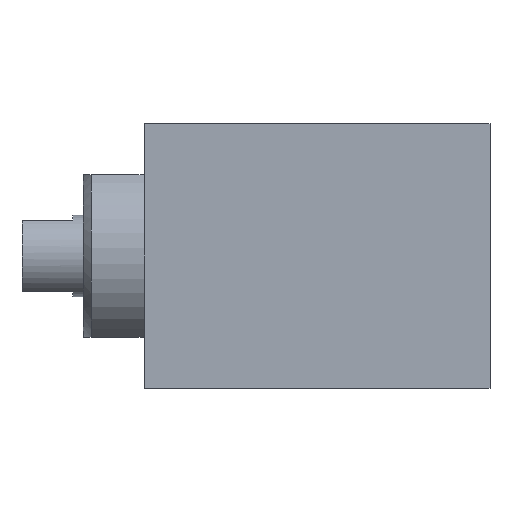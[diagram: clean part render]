
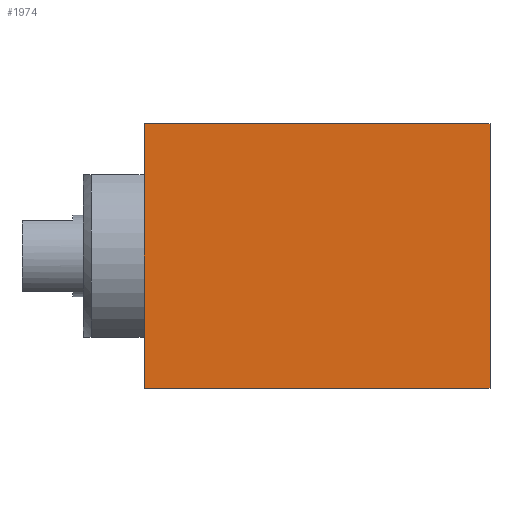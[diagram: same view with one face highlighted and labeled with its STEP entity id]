
A CAD part, front view. The second image highlights one B-rep face of the part: STEP entity #1974.
In plain terms, the highlighted planar face has unit normal (0, -1, 0).
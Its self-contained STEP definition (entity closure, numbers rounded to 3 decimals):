
#205 = CARTESIAN_POINT ( 'NONE',  ( 0., -10., -6.5 ) ) ;
#440 = EDGE_CURVE ( 'NONE', #1203, #2768, #860, .T. ) ;
#477 = ORIENTED_EDGE ( 'NONE', *, *, #1901, .F. ) ;
#529 = VERTEX_POINT ( 'NONE', #967 ) ;
#622 = DIRECTION ( 'NONE',  ( 0., 0., 1. ) ) ;
#749 = EDGE_CURVE ( 'NONE', #2768, #529, #1758, .T. ) ;
#860 = LINE ( 'NONE', #1991, #1065 ) ;
#896 = CARTESIAN_POINT ( 'NONE',  ( 17., -10., -6.5 ) ) ;
#967 = CARTESIAN_POINT ( 'NONE',  ( 0., -10., 6.5 ) ) ;
#1062 = ORIENTED_EDGE ( 'NONE', *, *, #749, .T. ) ;
#1065 = VECTOR ( 'NONE', #2409, 1000. ) ;
#1080 = FACE_OUTER_BOUND ( 'NONE', #1797, .T. ) ;
#1203 = VERTEX_POINT ( 'NONE', #896 ) ;
#1259 = DIRECTION ( 'NONE',  ( -1., 0., 0. ) ) ;
#1294 = LINE ( 'NONE', #205, #1823 ) ;
#1328 = CARTESIAN_POINT ( 'NONE',  ( 17., -10., 6.5 ) ) ;
#1428 = ORIENTED_EDGE ( 'NONE', *, *, #440, .T. ) ;
#1534 = CARTESIAN_POINT ( 'NONE',  ( 0., -10., -6.5 ) ) ;
#1718 = CARTESIAN_POINT ( 'NONE',  ( 17., -10., -6.5 ) ) ;
#1758 = LINE ( 'NONE', #2662, #2514 ) ;
#1774 = EDGE_CURVE ( 'NONE', #1203, #2705, #2828, .T. ) ;
#1797 = EDGE_LOOP ( 'NONE', ( #477, #2527, #1428, #1062 ) ) ;
#1823 = VECTOR ( 'NONE', #622, 1000. ) ;
#1901 = EDGE_CURVE ( 'NONE', #2705, #529, #1294, .T. ) ;
#1954 = CARTESIAN_POINT ( 'NONE',  ( 17., -10., -6.5 ) ) ;
#1974 = ADVANCED_FACE ( 'NONE', ( #1080 ), #2013, .T. ) ;
#1991 = CARTESIAN_POINT ( 'NONE',  ( 17., -10., -6.5 ) ) ;
#2013 = PLANE ( 'NONE',  #2567 ) ;
#2196 = DIRECTION ( 'NONE',  ( -1., 0., 0. ) ) ;
#2234 = VECTOR ( 'NONE', #1259, 1000. ) ;
#2409 = DIRECTION ( 'NONE',  ( 0., 0., 1. ) ) ;
#2514 = VECTOR ( 'NONE', #2196, 1000. ) ;
#2527 = ORIENTED_EDGE ( 'NONE', *, *, #1774, .F. ) ;
#2567 = AXIS2_PLACEMENT_3D ( 'NONE', #1954, #2899, #2859 ) ;
#2662 = CARTESIAN_POINT ( 'NONE',  ( 17., -10., 6.5 ) ) ;
#2705 = VERTEX_POINT ( 'NONE', #1534 ) ;
#2768 = VERTEX_POINT ( 'NONE', #1328 ) ;
#2828 = LINE ( 'NONE', #1718, #2234 ) ;
#2859 = DIRECTION ( 'NONE',  ( 1., 0., 0. ) ) ;
#2899 = DIRECTION ( 'NONE',  ( 0., -1., 0. ) ) ;
